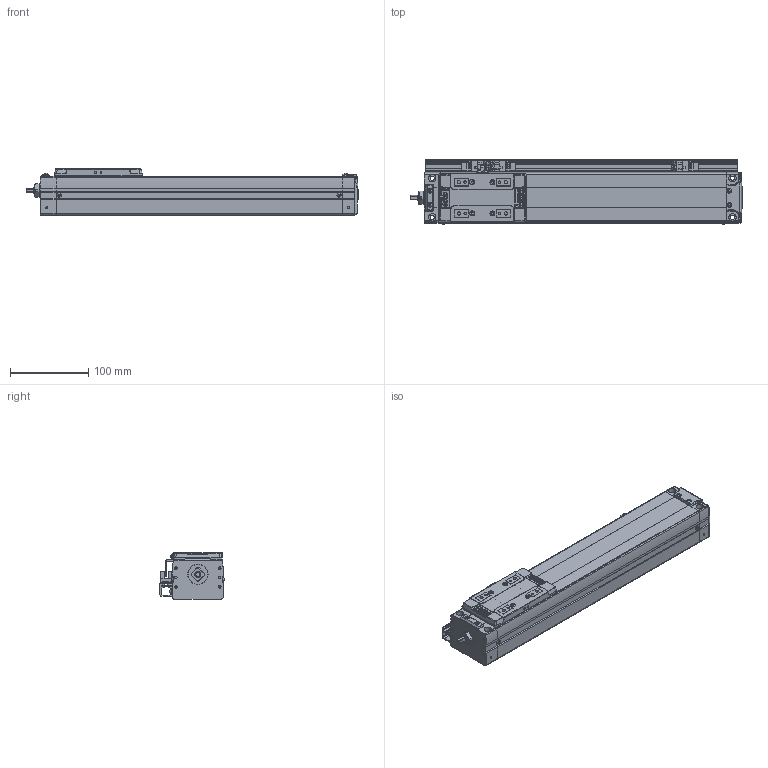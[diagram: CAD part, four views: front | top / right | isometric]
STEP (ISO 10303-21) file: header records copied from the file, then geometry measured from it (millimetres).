
FILE_DESCRIPTION(('STEP AP214'),'1');
FILE_NAME('Z:/Web/3D/SAN65/STP/SAN65ㅁㅁ-250+3SL.stp','2012-06-14T04:29:14',(' '),(' '),'Spatial InterOp 3D',' ',' ');
FILE_SCHEMA(('automotive_design'));
Length unit declared in the file: metre
Products named in the file (51): SAN65__-250; BODY-SAN65; REAR-SAN65; RRCV-SAN65; 스크루 : Round - M3.0 x 6.0; FRONT-SAN65; SHAFT-SAN65; RN8 x 0.75; SSFX-SAN65; SLIDE-SAN65; SLCV-SAN65; 스크루 : Countersunk - M3.0 x 6.0; ____196; 3SL; SRL-16x17-450L; - OT; EE-SX674; SBK-SX674-352; HOME; + OT; DOG; SDG-SAN65; 스크루 : Round - M3.0 x 5.0
Assembly tree (50 placements, depth 4):
  ____196
    SAN65__-250
      BODY-SAN65
      REAR-SAN65
        REAR-SAN65
        RRCV-SAN65
        스크루 : Round - M3.0 x 6.0
        스크루 : Round - M3.0 x 6.0
        스크루 : Round - M3.0 x 6.0
        스크루 : Round - M3.0 x 6.0
        스크루 : Round - M3.0 x 6.0
        스크루 : Round - M3.0 x 6.0
      FRONT-SAN65
        FRONT-SAN65
        SHAFT-SAN65
        RN8 x 0.75
        SSFX-SAN65
        스크루 : Round - M3.0 x 6.0
        스크루 : Round - M3.0 x 6.0
        스크루 : Round - M3.0 x 6.0
        스크루 : Round - M3.0 x 6.0
      SLIDE-SAN65
        SLIDE-SAN65
        SLCV-SAN65
        스크루 : Countersunk - M3.0 x 6.0
        스크루 : Countersunk - M3.0 x 6.0
        스크루 : Countersunk - M3.0 x 6.0
        스크루 : Countersunk - M3.0 x 6.0
    3SL
      SRL-16x17-450L
      스크루 : Round - M3.0 x 6.0
      스크루 : Round - M3.0 x 6.0
      - OT
        EE-SX674
        SBK-SX674-352
        스크루 : Round - M3.0 x 6.0
        스크루 : Round - M3.0 x 6.0
      HOME
        EE-SX674
        SBK-SX674-352
        스크루 : Round - M3.0 x 6.0
        스크루 : Round - M3.0 x 6.0
      + OT
        EE-SX674
        SBK-SX674-352
        스크루 : Round - M3.0 x 6.0
        스크루 : Round - M3.0 x 6.0
      DOG
        SDG-SAN65
        스크루 : Round - M3.0 x 5.0
        스크루 : Round - M3.0 x 5.0
Bounding box: 424.65 x 82.06 x 60 mm (x, y, z)
Volume: 1361318.4 mm3; surface area: 225437.2 mm2
Topology: 41 solids, 41 shells, 1867 faces, 4799 edges, 3134 vertices
Faces by surface type: plane 1243, cylinder 463, cone 85, sphere 32, bspline 26, torus 15, extrusion 3
Full cylindrical faces by diameter (mm): 0.571 x2, 0.706 x1, 1.727 x2, 2.132 x1, 2.2 x4, 2.5 x15, 2.528 x4, 3 x6, 3.121 x2, 3.3 x4, 3.4 x4, 3.5 x14, 4.2 x24, 4.849 x4, 5 x3, 5.5 x4, 5.987 x2, 6 x6, 6.5 x2, 7 x1, 8 x4, 9.5 x4, 13 x1, 15 x1, 19 x1
Entity records: 75459 total; most frequent: CARTESIAN_POINT 14274, DIRECTION 9403, ORIENTED_EDGE 8992, EDGE_CURVE 4496, VECTOR 3205, LINE 3202, AXIS2_PLACEMENT_3D 3099, VERTEX_POINT 3074
